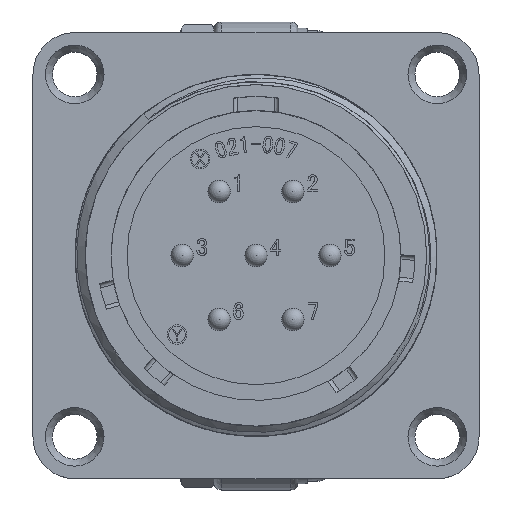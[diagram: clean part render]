
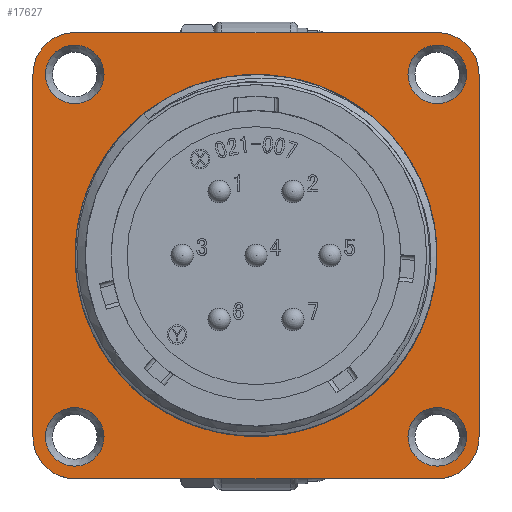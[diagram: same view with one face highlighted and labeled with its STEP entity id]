
A CAD part, top view. The second image highlights one B-rep face of the part: STEP entity #17627.
In plain terms, the highlighted planar face has unit normal (0, 0, 1).
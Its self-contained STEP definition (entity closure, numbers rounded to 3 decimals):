
#867 = DIRECTION ( 'NONE',  ( 1., 0., 0. ) ) ;
#944 = CARTESIAN_POINT ( 'NONE',  ( -10.9, -13., -10.5 ) ) ;
#1016 = CARTESIAN_POINT ( 'NONE',  ( 0., 0., -10.5 ) ) ;
#1329 = VERTEX_POINT ( 'NONE', #944 ) ;
#1398 = ORIENTED_EDGE ( 'NONE', *, *, #17181, .F. ) ;
#1475 = ORIENTED_EDGE ( 'NONE', *, *, #6512, .F. ) ;
#1685 = AXIS2_PLACEMENT_3D ( 'NONE', #28059, #13029, #15688 ) ;
#1714 = EDGE_LOOP ( 'NONE', ( #1890 ) ) ;
#1890 = ORIENTED_EDGE ( 'NONE', *, *, #34345, .F. ) ;
#2086 = AXIS2_PLACEMENT_3D ( 'NONE', #15325, #12292, #21068 ) ;
#2375 = DIRECTION ( 'NONE',  ( 0., 0., 1. ) ) ;
#2829 = CIRCLE ( 'NONE', #2086, 3. ) ;
#3011 = EDGE_CURVE ( 'NONE', #10408, #10408, #27461, .T. ) ;
#3108 = VERTEX_POINT ( 'NONE', #8219 ) ;
#3189 = VECTOR ( 'NONE', #35377, 1000. ) ;
#3465 = DIRECTION ( 'NONE',  ( 0., 0., -1. ) ) ;
#4022 = DIRECTION ( 'NONE',  ( 1., 0., 0. ) ) ;
#4124 = ORIENTED_EDGE ( 'NONE', *, *, #31076, .T. ) ;
#4331 = FACE_BOUND ( 'NONE', #31530, .T. ) ;
#4416 = CARTESIAN_POINT ( 'NONE',  ( -16., -13., -10.5 ) ) ;
#4514 = AXIS2_PLACEMENT_3D ( 'NONE', #12946, #3465, #21995 ) ;
#4645 = VERTEX_POINT ( 'NONE', #13059 ) ;
#4727 = CARTESIAN_POINT ( 'NONE',  ( 16., 13., -10.5 ) ) ;
#5114 = EDGE_LOOP ( 'NONE', ( #4124 ) ) ;
#5231 = VERTEX_POINT ( 'NONE', #38638 ) ;
#5719 = ORIENTED_EDGE ( 'NONE', *, *, #29457, .F. ) ;
#6512 = EDGE_CURVE ( 'NONE', #37736, #37736, #26382, .T. ) ;
#6582 = ORIENTED_EDGE ( 'NONE', *, *, #31267, .F. ) ;
#7278 = CIRCLE ( 'NONE', #10186, 2.1 ) ;
#7317 = DIRECTION ( 'NONE',  ( 0., 0., -1. ) ) ;
#7393 = CARTESIAN_POINT ( 'NONE',  ( 12.98, 0., -10.5 ) ) ;
#7706 = AXIS2_PLACEMENT_3D ( 'NONE', #25662, #28707, #28324 ) ;
#8168 = VERTEX_POINT ( 'NONE', #24794 ) ;
#8219 = CARTESIAN_POINT ( 'NONE',  ( 16., -13., -10.5 ) ) ;
#8671 = DIRECTION ( 'NONE',  ( 1., 0., 0. ) ) ;
#8826 = DIRECTION ( 'NONE',  ( 1., 0., 0. ) ) ;
#8939 = VERTEX_POINT ( 'NONE', #38268 ) ;
#9467 = DIRECTION ( 'NONE',  ( 0., 1., 0. ) ) ;
#9845 = EDGE_CURVE ( 'NONE', #4645, #14580, #25271, .T. ) ;
#9984 = CARTESIAN_POINT ( 'NONE',  ( 13., 13., -10.5 ) ) ;
#10036 = CIRCLE ( 'NONE', #7706, 2.1 ) ;
#10186 = AXIS2_PLACEMENT_3D ( 'NONE', #32678, #2375, #8671 ) ;
#10257 = DIRECTION ( 'NONE',  ( 0., 0., 1. ) ) ;
#10408 = VERTEX_POINT ( 'NONE', #33761 ) ;
#10762 = LINE ( 'NONE', #17224, #3189 ) ;
#11409 = EDGE_CURVE ( 'NONE', #14580, #5231, #33228, .T. ) ;
#11939 = LINE ( 'NONE', #14156, #15277 ) ;
#12292 = DIRECTION ( 'NONE',  ( 0., 0., -1. ) ) ;
#12668 = ORIENTED_EDGE ( 'NONE', *, *, #20831, .F. ) ;
#12846 = VERTEX_POINT ( 'NONE', #19545 ) ;
#12946 = CARTESIAN_POINT ( 'NONE',  ( -13., -13., -10.5 ) ) ;
#13029 = DIRECTION ( 'NONE',  ( 0., 0., 1. ) ) ;
#13059 = CARTESIAN_POINT ( 'NONE',  ( -13., -16., -10.5 ) ) ;
#13131 = DIRECTION ( 'NONE',  ( 0., 0., 1. ) ) ;
#13193 = CARTESIAN_POINT ( 'NONE',  ( -13., 16., -10.5 ) ) ;
#13229 = AXIS2_PLACEMENT_3D ( 'NONE', #22176, #13131, #4022 ) ;
#13303 = FACE_BOUND ( 'NONE', #1714, .T. ) ;
#13526 = PLANE ( 'NONE',  #13229 ) ;
#14156 = CARTESIAN_POINT ( 'NONE',  ( 13., 16., -10.5 ) ) ;
#14513 = CIRCLE ( 'NONE', #27002, 12.98 ) ;
#14580 = VERTEX_POINT ( 'NONE', #4416 ) ;
#14781 = DIRECTION ( 'NONE',  ( 0., 0., -1. ) ) ;
#15277 = VECTOR ( 'NONE', #31959, 1000. ) ;
#15313 = VECTOR ( 'NONE', #9467, 1000. ) ;
#15325 = CARTESIAN_POINT ( 'NONE',  ( 13., 13., -10.5 ) ) ;
#15688 = DIRECTION ( 'NONE',  ( 1., 0., 0. ) ) ;
#15932 = DIRECTION ( 'NONE',  ( 1., 0., 0. ) ) ;
#16329 = DIRECTION ( 'NONE',  ( 0., 0., -1. ) ) ;
#17181 = EDGE_CURVE ( 'NONE', #1329, #1329, #10036, .T. ) ;
#17224 = CARTESIAN_POINT ( 'NONE',  ( 16., 13., -10.5 ) ) ;
#17528 = FACE_BOUND ( 'NONE', #21021, .T. ) ;
#17558 = EDGE_CURVE ( 'NONE', #3108, #12846, #31252, .T. ) ;
#17627 = ADVANCED_FACE ( 'NONE', ( #28885, #17528, #13303, #4331, #35436, #27411 ), #13526, .T. ) ;
#19030 = CARTESIAN_POINT ( 'NONE',  ( 13., -13., -10.5 ) ) ;
#19453 = CARTESIAN_POINT ( 'NONE',  ( 13., -16., -10.5 ) ) ;
#19545 = CARTESIAN_POINT ( 'NONE',  ( 13., -16., -10.5 ) ) ;
#19782 = VERTEX_POINT ( 'NONE', #7393 ) ;
#20151 = ORIENTED_EDGE ( 'NONE', *, *, #35398, .F. ) ;
#20751 = AXIS2_PLACEMENT_3D ( 'NONE', #9984, #10257, #867 ) ;
#20831 = EDGE_CURVE ( 'NONE', #8168, #38440, #2829, .T. ) ;
#21021 = EDGE_LOOP ( 'NONE', ( #1398 ) ) ;
#21068 = DIRECTION ( 'NONE',  ( -1., 0., 0. ) ) ;
#21154 = VECTOR ( 'NONE', #22485, 1000. ) ;
#21208 = VERTEX_POINT ( 'NONE', #13193 ) ;
#21671 = CARTESIAN_POINT ( 'NONE',  ( -16., 13., -10.5 ) ) ;
#21980 = CARTESIAN_POINT ( 'NONE',  ( -10.9, 13., -10.5 ) ) ;
#21995 = DIRECTION ( 'NONE',  ( 1., 0., 0. ) ) ;
#22176 = CARTESIAN_POINT ( 'NONE',  ( -13., -13., -10.5 ) ) ;
#22485 = DIRECTION ( 'NONE',  ( -1., 0., 0. ) ) ;
#22545 = AXIS2_PLACEMENT_3D ( 'NONE', #19030, #7317, #37106 ) ;
#22556 = EDGE_LOOP ( 'NONE', ( #1475 ) ) ;
#23568 = CARTESIAN_POINT ( 'NONE',  ( -13., 13., -10.5 ) ) ;
#24794 = CARTESIAN_POINT ( 'NONE',  ( 13., 16., -10.5 ) ) ;
#25025 = ORIENTED_EDGE ( 'NONE', *, *, #11409, .F. ) ;
#25271 = CIRCLE ( 'NONE', #4514, 3. ) ;
#25662 = CARTESIAN_POINT ( 'NONE',  ( -13., -13., -10.5 ) ) ;
#25830 = EDGE_LOOP ( 'NONE', ( #36275, #5719, #34707, #6582, #12668, #31429, #20151, #25025 ) ) ;
#26382 = CIRCLE ( 'NONE', #1685, 2.1 ) ;
#27002 = AXIS2_PLACEMENT_3D ( 'NONE', #1016, #16329, #15932 ) ;
#27411 = FACE_BOUND ( 'NONE', #5114, .T. ) ;
#27461 = CIRCLE ( 'NONE', #20751, 2.1 ) ;
#28059 = CARTESIAN_POINT ( 'NONE',  ( -13., 13., -10.5 ) ) ;
#28316 = ORIENTED_EDGE ( 'NONE', *, *, #3011, .F. ) ;
#28324 = DIRECTION ( 'NONE',  ( 1., 0., 0. ) ) ;
#28707 = DIRECTION ( 'NONE',  ( 0., 0., 1. ) ) ;
#28885 = FACE_OUTER_BOUND ( 'NONE', #25830, .T. ) ;
#29457 = EDGE_CURVE ( 'NONE', #12846, #4645, #32087, .T. ) ;
#31076 = EDGE_CURVE ( 'NONE', #19782, #19782, #14513, .T. ) ;
#31252 = CIRCLE ( 'NONE', #22545, 3. ) ;
#31267 = EDGE_CURVE ( 'NONE', #38440, #3108, #10762, .T. ) ;
#31429 = ORIENTED_EDGE ( 'NONE', *, *, #35347, .F. ) ;
#31530 = EDGE_LOOP ( 'NONE', ( #28316 ) ) ;
#31959 = DIRECTION ( 'NONE',  ( 1., 0., 0. ) ) ;
#32087 = LINE ( 'NONE', #19453, #21154 ) ;
#32678 = CARTESIAN_POINT ( 'NONE',  ( 13., -13., -10.5 ) ) ;
#33228 = LINE ( 'NONE', #21671, #15313 ) ;
#33638 = CIRCLE ( 'NONE', #35871, 3. ) ;
#33761 = CARTESIAN_POINT ( 'NONE',  ( 15.1, 13., -10.5 ) ) ;
#34345 = EDGE_CURVE ( 'NONE', #8939, #8939, #7278, .T. ) ;
#34707 = ORIENTED_EDGE ( 'NONE', *, *, #17558, .F. ) ;
#35347 = EDGE_CURVE ( 'NONE', #21208, #8168, #11939, .T. ) ;
#35377 = DIRECTION ( 'NONE',  ( 0., -1., 0. ) ) ;
#35398 = EDGE_CURVE ( 'NONE', #5231, #21208, #33638, .T. ) ;
#35436 = FACE_BOUND ( 'NONE', #22556, .T. ) ;
#35871 = AXIS2_PLACEMENT_3D ( 'NONE', #23568, #14781, #8826 ) ;
#36275 = ORIENTED_EDGE ( 'NONE', *, *, #9845, .F. ) ;
#37106 = DIRECTION ( 'NONE',  ( -1., 0., 0. ) ) ;
#37736 = VERTEX_POINT ( 'NONE', #21980 ) ;
#38268 = CARTESIAN_POINT ( 'NONE',  ( 15.1, -13., -10.5 ) ) ;
#38440 = VERTEX_POINT ( 'NONE', #4727 ) ;
#38638 = CARTESIAN_POINT ( 'NONE',  ( -16., 13., -10.5 ) ) ;
